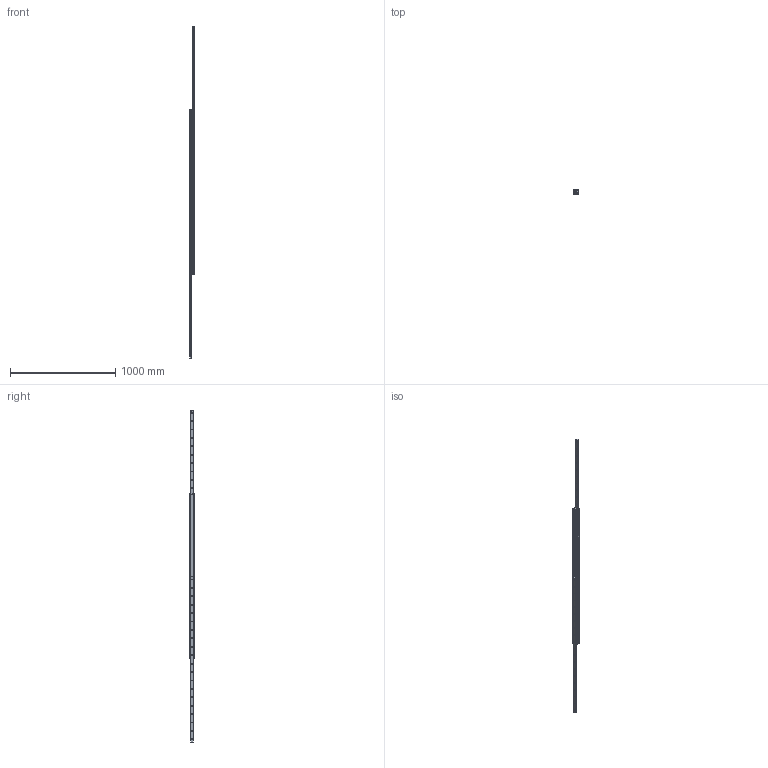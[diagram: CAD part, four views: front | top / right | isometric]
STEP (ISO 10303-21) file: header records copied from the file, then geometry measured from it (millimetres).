
FILE_DESCRIPTION( ( 'STEP AP214' ), '1' );
FILE_NAME( 'p:/temp/worker_94/temp/exporttempdir_5220_943_RJ7ya/format_1/DEF43-15701586.stp', '2020-03-20T20:03:40', ( 'License CC BY-ND 4.0' ), ( 'CADENAS' ), ' ', 'PARTsolutions', ' ' );
FILE_SCHEMA( ( 'AUTOMOTIVE_DESIGN { 1 0 10303 214 1 1 1 1 }' ) );
Length unit declared in the file: millimetre
Products named in the file (4): DEF43-15701586; _43211570158612-gf; _4321157015861-ei; _43211570158611-gf
Assembly tree (4 placements, depth 2):
  DEF43-15701586
    _43211570158612-gf
    _4321157015861-ei  x2
    _43211570158611-gf
Bounding box: 44 x 43 x 3156 mm (x, y, z)
Volume: 1940527.3 mm3; surface area: 739126.9 mm2
Topology: 4 solids, 4 shells, 272 faces, 672 edges, 420 vertices
Faces by surface type: plane 102, cylinder 86, cone 84
Full cylindrical faces by diameter (mm): 4.134 x2, 6.647 x40, 7 x2
Entity records: 7964 total; most frequent: DIRECTION 1108, CARTESIAN_POINT 989, ORIENTED_EDGE 846, AXIS2_PLACEMENT_3D 456, EDGE_LOOP 436, EDGE_CURVE 423, VERTEX_POINT 337, FACE_OUTER_BOUND 266
